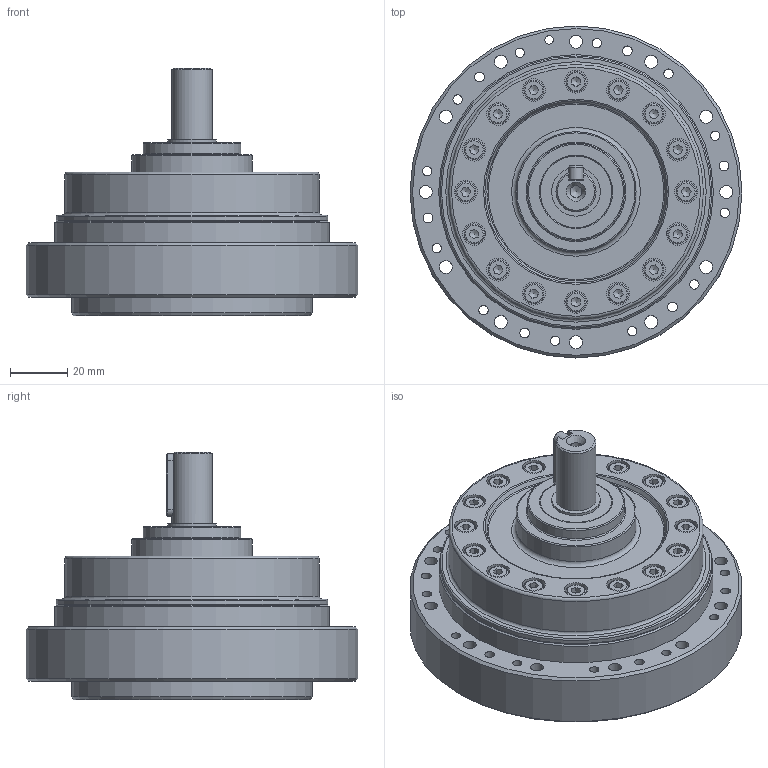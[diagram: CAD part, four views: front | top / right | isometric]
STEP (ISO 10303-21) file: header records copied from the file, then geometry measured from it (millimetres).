
FILE_DESCRIPTION(/* description */ (''),/* implementation_level */ '2;1');
FILE_NAME(/* name */ 'C:\Users\yin210\Desktop\CPU\25\DSC-25-AJ-M.stp',/* time_stamp */ '2022-05-16T18:15:47+08:00',/* author */ ('yin210'),/* organization */ (''),/* preprocessor_version */ 'ST-DEVELOPER v15.2',/* originating_system */ 'Autodesk Inventor 2014',/* authorisation */ '');
FILE_SCHEMA (('AUTOMOTIVE_DESIGN { 1 0 10303 214 3 1 1 }'));
Length unit declared in the file: centimetre
Products named in the file (1): DSC-25-AJ-M
Bounding box: 116 x 116 x 86.5 mm (x, y, z)
Volume: 389458 mm3; surface area: 52885.4 mm2
Topology: 1 solids, 1 shells, 350 faces, 814 edges, 527 vertices
Faces by surface type: plane 170, cylinder 108, cone 44, torus 28
Full cylindrical faces by diameter (mm): 3 x1, 3.242 x24, 3.4 x6, 4.134 x13, 4.5 x12, 6.5 x6, 7 x16, 8 x16, 14 x1, 17 x1, 25 x1, 34 x1, 42 x1, 68 x1, 84 x1, 89 x1, 95 x1, 96 x1, 116 x1
Entity records: 8809 total; most frequent: CARTESIAN_POINT 1617, DIRECTION 1447, ORIENTED_EDGE 1168, EDGE_LOOP 647, AXIS2_PLACEMENT_3D 611, EDGE_CURVE 584, VERTEX_POINT 469, ADVANCED_FACE 350
